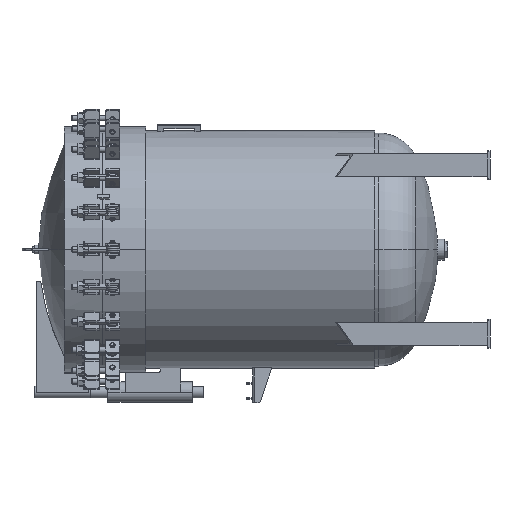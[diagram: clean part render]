
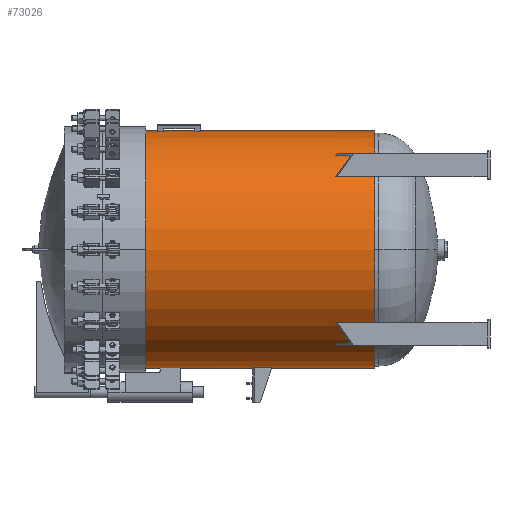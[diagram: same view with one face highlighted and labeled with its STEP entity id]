
A CAD part, left-side view. The second image highlights one B-rep face of the part: STEP entity #73026.
In plain terms, the highlighted cylindrical face has radius 517.525 mm (diameter 1035.05 mm), a partial arc.
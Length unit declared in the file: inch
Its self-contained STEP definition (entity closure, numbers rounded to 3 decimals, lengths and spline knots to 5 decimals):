
#4 = AXIS2_PLACEMENT_3D ( 'NONE', #105995, #62657, #52023 ) ;
#885 = CARTESIAN_POINT ( 'NONE',  ( 0., -10.5, 0. ) ) ;
#896 = VERTEX_POINT ( 'NONE', #87363 ) ;
#1447 = EDGE_CURVE ( 'NONE', #97240, #13509, #45083, .T. ) ;
#1780 = VERTEX_POINT ( 'NONE', #61969 ) ;
#2000 = DIRECTION ( 'NONE',  ( 0., -1., 0. ) ) ;
#2267 = EDGE_CURVE ( 'NONE', #10639, #116453, #56876, .T. ) ;
#2337 = CIRCLE ( 'NONE', #32635, 20.375 ) ;
#2588 = EDGE_LOOP ( 'NONE', ( #39605, #27761, #114790, #74831 ) ) ;
#4353 = AXIS2_PLACEMENT_3D ( 'NONE', #8070, #35358, #24096 ) ;
#5899 = CARTESIAN_POINT ( 'NONE',  ( 0., -13.5, 0. ) ) ;
#7075 = DIRECTION ( 'NONE',  ( 0., 0., 1. ) ) ;
#7115 = EDGE_CURVE ( 'NONE', #13509, #113342, #55797, .T. ) ;
#8070 = CARTESIAN_POINT ( 'NONE',  ( 0., -10., 0. ) ) ;
#8357 = DIRECTION ( 'NONE',  ( 0., 1., 0. ) ) ;
#10639 = VERTEX_POINT ( 'NONE', #65437 ) ;
#11843 = EDGE_CURVE ( 'NONE', #39243, #64142, #95045, .T. ) ;
#13196 = AXIS2_PLACEMENT_3D ( 'NONE', #32132, #41598, #58789 ) ;
#13509 = VERTEX_POINT ( 'NONE', #60273 ) ;
#15970 = LINE ( 'NONE', #59869, #52963 ) ;
#18497 = CIRCLE ( 'NONE', #92329, 20.375 ) ;
#21041 = VERTEX_POINT ( 'NONE', #44862 ) ;
#23714 = CARTESIAN_POINT ( 'NONE',  ( -1.875, -13.5, -20.28854 ) ) ;
#24096 = DIRECTION ( 'NONE',  ( 0., 0., -1. ) ) ;
#26264 = VERTEX_POINT ( 'NONE', #89786 ) ;
#27761 = ORIENTED_EDGE ( 'NONE', *, *, #7115, .T. ) ;
#28669 = FACE_BOUND ( 'NONE', #89828, .T. ) ;
#29000 = CIRCLE ( 'NONE', #4353, 20.375 ) ;
#29050 = ORIENTED_EDGE ( 'NONE', *, *, #50516, .F. ) ;
#29262 = DIRECTION ( 'NONE',  ( 0., 0., -1. ) ) ;
#29438 = CARTESIAN_POINT ( 'NONE',  ( -1.625, -10., -20.3101 ) ) ;
#29965 = VECTOR ( 'NONE', #92832, 39.37008 ) ;
#31334 = CARTESIAN_POINT ( 'NONE',  ( 0., -16.9375, 0. ) ) ;
#31422 = VECTOR ( 'NONE', #48830, 39.37008 ) ;
#32132 = CARTESIAN_POINT ( 'NONE',  ( 0., -15.9375, 0. ) ) ;
#32635 = AXIS2_PLACEMENT_3D ( 'NONE', #5899, #42074, #7075 ) ;
#32683 = ORIENTED_EDGE ( 'NONE', *, *, #99766, .F. ) ;
#35358 = DIRECTION ( 'NONE',  ( 0., -1., 0. ) ) ;
#36004 = CIRCLE ( 'NONE', #4, 20.375 ) ;
#36467 = DIRECTION ( 'NONE',  ( 0., 0., -1. ) ) ;
#36830 = ORIENTED_EDGE ( 'NONE', *, *, #107764, .T. ) ;
#37591 = FACE_BOUND ( 'NONE', #2588, .T. ) ;
#39243 = VERTEX_POINT ( 'NONE', #114188 ) ;
#39605 = ORIENTED_EDGE ( 'NONE', *, *, #1447, .T. ) ;
#39618 = DIRECTION ( 'NONE',  ( 0., -1., 0. ) ) ;
#41022 = EDGE_CURVE ( 'NONE', #105902, #64142, #53634, .T. ) ;
#41598 = DIRECTION ( 'NONE',  ( 0., 1., 0. ) ) ;
#41882 = CIRCLE ( 'NONE', #55148, 20.375 ) ;
#42074 = DIRECTION ( 'NONE',  ( 0., 1., 0. ) ) ;
#44862 = CARTESIAN_POINT ( 'NONE',  ( -2.44196, -16.9375, 20.22814 ) ) ;
#45083 = LINE ( 'NONE', #62846, #64379 ) ;
#45705 = EDGE_CURVE ( 'NONE', #26264, #116453, #109817, .T. ) ;
#45874 = FACE_OUTER_BOUND ( 'NONE', #68521, .T. ) ;
#46029 = VERTEX_POINT ( 'NONE', #77065 ) ;
#46813 = CARTESIAN_POINT ( 'NONE',  ( -1.875, -3.84375, -20.28854 ) ) ;
#47980 = AXIS2_PLACEMENT_3D ( 'NONE', #76551, #49843, #86030 ) ;
#48830 = DIRECTION ( 'NONE',  ( 0., -1., 0. ) ) ;
#49843 = DIRECTION ( 'NONE',  ( 0., 1., 0. ) ) ;
#50516 = EDGE_CURVE ( 'NONE', #46029, #82989, #29000, .T. ) ;
#52023 = DIRECTION ( 'NONE',  ( -1., 0., 0. ) ) ;
#52500 = EDGE_CURVE ( 'NONE', #896, #82989, #61736, .T. ) ;
#52963 = VECTOR ( 'NONE', #58690, 39.37008 ) ;
#53634 = CIRCLE ( 'NONE', #47980, 20.375 ) ;
#54638 = AXIS2_PLACEMENT_3D ( 'NONE', #73743, #2000, #29262 ) ;
#55148 = AXIS2_PLACEMENT_3D ( 'NONE', #31334, #94744, #114351 ) ;
#55797 = CIRCLE ( 'NONE', #74792, 20.375 ) ;
#56794 = CARTESIAN_POINT ( 'NONE',  ( 0., -3.84375, -20.375 ) ) ;
#56876 = LINE ( 'NONE', #101384, #98645 ) ;
#58690 = DIRECTION ( 'NONE',  ( 0., 1., 0. ) ) ;
#58787 = EDGE_LOOP ( 'NONE', ( #29050, #62320, #110487, #77996 ) ) ;
#58789 = DIRECTION ( 'NONE',  ( 0., 0., 1. ) ) ;
#59404 = CARTESIAN_POINT ( 'NONE',  ( -1.625, -3.84375, -20.3101 ) ) ;
#59869 = CARTESIAN_POINT ( 'NONE',  ( -2.44196, -3.84375, 20.22814 ) ) ;
#60273 = CARTESIAN_POINT ( 'NONE',  ( -2.44196, -9.5, 20.22814 ) ) ;
#61736 = LINE ( 'NONE', #59404, #76454 ) ;
#61847 = EDGE_CURVE ( 'NONE', #94155, #46029, #101353, .T. ) ;
#61969 = CARTESIAN_POINT ( 'NONE',  ( -2.37926, -10.5, 20.23561 ) ) ;
#62320 = ORIENTED_EDGE ( 'NONE', *, *, #61847, .F. ) ;
#62657 = DIRECTION ( 'NONE',  ( 0., 1., 0. ) ) ;
#62846 = CARTESIAN_POINT ( 'NONE',  ( -2.44196, -3.84375, 20.22814 ) ) ;
#64142 = VERTEX_POINT ( 'NONE', #100356 ) ;
#64379 = VECTOR ( 'NONE', #108534, 39.37008 ) ;
#65178 = DIRECTION ( 'NONE',  ( 0., 1., 0. ) ) ;
#65406 = FACE_BOUND ( 'NONE', #58787, .T. ) ;
#65437 = CARTESIAN_POINT ( 'NONE',  ( -2.37926, -16.9375, 20.23561 ) ) ;
#65592 = ORIENTED_EDGE ( 'NONE', *, *, #2267, .F. ) ;
#65633 = CARTESIAN_POINT ( 'NONE',  ( 0., -7.5, -20.375 ) ) ;
#65899 = EDGE_CURVE ( 'NONE', #896, #94155, #2337, .T. ) ;
#66865 = LINE ( 'NONE', #56794, #112089 ) ;
#68521 = EDGE_LOOP ( 'NONE', ( #84204, #32683, #36830, #80311 ) ) ;
#71532 = ORIENTED_EDGE ( 'NONE', *, *, #94188, .T. ) ;
#72640 = ORIENTED_EDGE ( 'NONE', *, *, #102094, .T. ) ;
#72720 = EDGE_CURVE ( 'NONE', #1780, #113342, #110686, .T. ) ;
#73026 = ADVANCED_FACE ( 'Defeatured_51928', ( #45874, #37591, #28669, #65406 ), #110531, .T. ) ;
#73743 = CARTESIAN_POINT ( 'NONE',  ( 0., -3.84375, 0. ) ) ;
#74792 = AXIS2_PLACEMENT_3D ( 'NONE', #89568, #8357, #90154 ) ;
#74831 = ORIENTED_EDGE ( 'NONE', *, *, #116369, .T. ) ;
#76454 = VECTOR ( 'NONE', #106231, 39.37008 ) ;
#76551 = CARTESIAN_POINT ( 'NONE',  ( 0., -46.84375, 0. ) ) ;
#77065 = CARTESIAN_POINT ( 'NONE',  ( -1.875, -10., -20.28854 ) ) ;
#77996 = ORIENTED_EDGE ( 'NONE', *, *, #52500, .T. ) ;
#80311 = ORIENTED_EDGE ( 'NONE', *, *, #41022, .T. ) ;
#81592 = CARTESIAN_POINT ( 'NONE',  ( -2.37926, -16.9375, 20.23561 ) ) ;
#82989 = VERTEX_POINT ( 'NONE', #29438 ) ;
#83605 = ORIENTED_EDGE ( 'NONE', *, *, #45705, .T. ) ;
#84204 = ORIENTED_EDGE ( 'NONE', *, *, #11843, .F. ) ;
#84343 = CARTESIAN_POINT ( 'NONE',  ( 0., -46.84375, -20.375 ) ) ;
#85582 = CARTESIAN_POINT ( 'NONE',  ( 0., -3.84375, 20.375 ) ) ;
#86030 = DIRECTION ( 'NONE',  ( 1., 0., 0. ) ) ;
#87363 = CARTESIAN_POINT ( 'NONE',  ( -1.625, -13.5, -20.3101 ) ) ;
#89568 = CARTESIAN_POINT ( 'NONE',  ( 0., -9.5, 0. ) ) ;
#89786 = CARTESIAN_POINT ( 'NONE',  ( -2.44196, -15.9375, 20.22814 ) ) ;
#89828 = EDGE_LOOP ( 'NONE', ( #65592, #72640, #71532, #83605 ) ) ;
#90154 = DIRECTION ( 'NONE',  ( 0., 0., 1. ) ) ;
#92220 = CARTESIAN_POINT ( 'NONE',  ( -2.44196, -10.5, 20.22814 ) ) ;
#92329 = AXIS2_PLACEMENT_3D ( 'NONE', #885, #108807, #36467 ) ;
#92832 = DIRECTION ( 'NONE',  ( 0., 1., 0. ) ) ;
#94155 = VERTEX_POINT ( 'NONE', #23714 ) ;
#94188 = EDGE_CURVE ( 'NONE', #21041, #26264, #15970, .T. ) ;
#94744 = DIRECTION ( 'NONE',  ( 0., -1., 0. ) ) ;
#95045 = LINE ( 'NONE', #85582, #31422 ) ;
#95835 = VERTEX_POINT ( 'NONE', #65633 ) ;
#96325 = CARTESIAN_POINT ( 'NONE',  ( -2.37926, -9.5, 20.23561 ) ) ;
#97240 = VERTEX_POINT ( 'NONE', #92220 ) ;
#98645 = VECTOR ( 'NONE', #110324, 39.37008 ) ;
#99766 = EDGE_CURVE ( 'NONE', #95835, #39243, #36004, .T. ) ;
#100356 = CARTESIAN_POINT ( 'NONE',  ( 0., -46.84375, 20.375 ) ) ;
#100448 = VECTOR ( 'NONE', #65178, 39.37008 ) ;
#101353 = LINE ( 'NONE', #46813, #100448 ) ;
#101384 = CARTESIAN_POINT ( 'NONE',  ( -2.37926, -16.9375, 20.23561 ) ) ;
#102094 = EDGE_CURVE ( 'NONE', #10639, #21041, #41882, .T. ) ;
#105902 = VERTEX_POINT ( 'NONE', #84343 ) ;
#105995 = CARTESIAN_POINT ( 'NONE',  ( 0., -7.5, 0. ) ) ;
#106231 = DIRECTION ( 'NONE',  ( 0., 1., 0. ) ) ;
#107764 = EDGE_CURVE ( 'NONE', #95835, #105902, #66865, .T. ) ;
#108534 = DIRECTION ( 'NONE',  ( 0., 1., 0. ) ) ;
#108807 = DIRECTION ( 'NONE',  ( 0., -1., 0. ) ) ;
#109817 = CIRCLE ( 'NONE', #13196, 20.375 ) ;
#110324 = DIRECTION ( 'NONE',  ( 0., 1., 0. ) ) ;
#110487 = ORIENTED_EDGE ( 'NONE', *, *, #65899, .F. ) ;
#110531 = CYLINDRICAL_SURFACE ( 'NONE', #54638, 20.375 ) ;
#110686 = LINE ( 'NONE', #81592, #29965 ) ;
#112089 = VECTOR ( 'NONE', #39618, 39.37008 ) ;
#113342 = VERTEX_POINT ( 'NONE', #96325 ) ;
#114188 = CARTESIAN_POINT ( 'NONE',  ( 0., -7.5, 20.375 ) ) ;
#114351 = DIRECTION ( 'NONE',  ( 0., 0., -1. ) ) ;
#114790 = ORIENTED_EDGE ( 'NONE', *, *, #72720, .F. ) ;
#116369 = EDGE_CURVE ( 'NONE', #1780, #97240, #18497, .T. ) ;
#116453 = VERTEX_POINT ( 'NONE', #117154 ) ;
#117154 = CARTESIAN_POINT ( 'NONE',  ( -2.37926, -15.9375, 20.23561 ) ) ;
